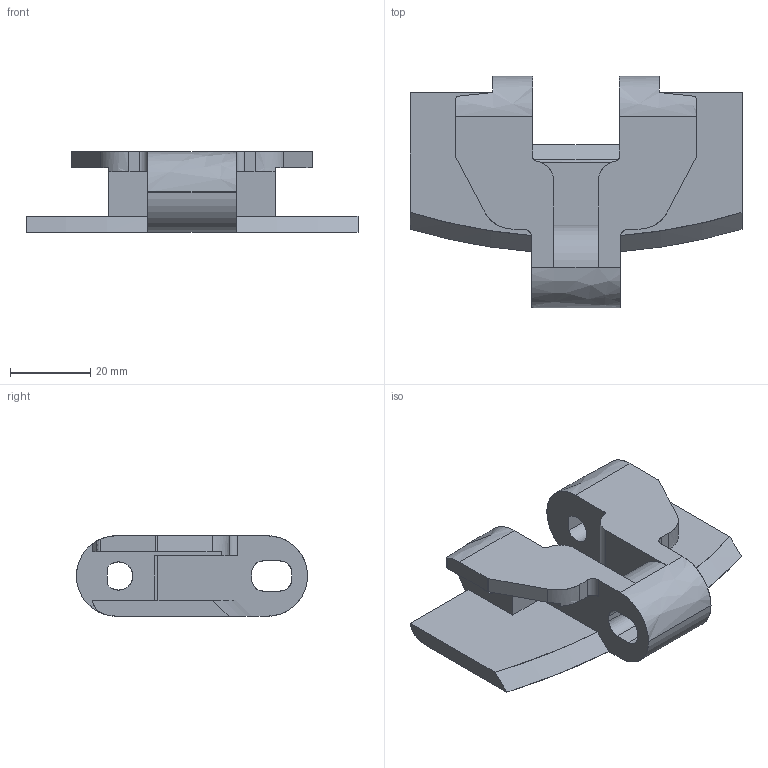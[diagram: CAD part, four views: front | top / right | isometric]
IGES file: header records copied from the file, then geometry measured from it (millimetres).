
Start section: SolidWorks IGES file using analytic representation for surfaces
Global section: file name: C:\Documents and Settings\URETIM3\Desktop\yeni katalog tolgay\880 tab kulaklý dönüþlü bant\880 TBS 082.IGS; native system: SolidWorks 2006 by SolidWorks Corporation; preprocessor: SolidWorks 2006 by SolidWorks Corporation; author: URETIM3; date: 061030.092456; units: millimetre
Bounding box: 82.6 x 57.5 x 20 mm (x, y, z)
Surface area: 13540.4 mm2 (no closed solid volume)
Topology: 0 solids, 0 shells, 68 faces, 838 edges, 838 vertices
Faces by surface type: bspline 38, revolution 30
